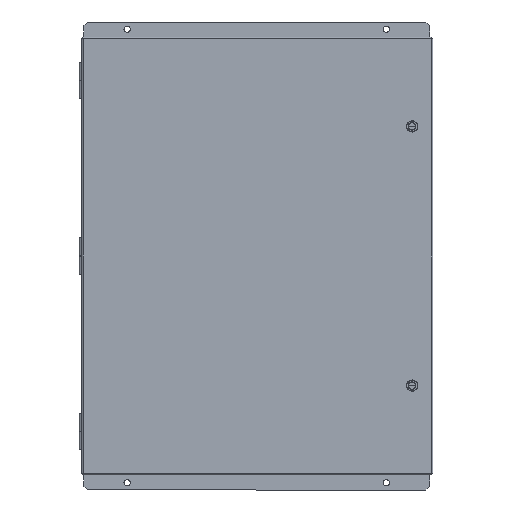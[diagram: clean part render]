
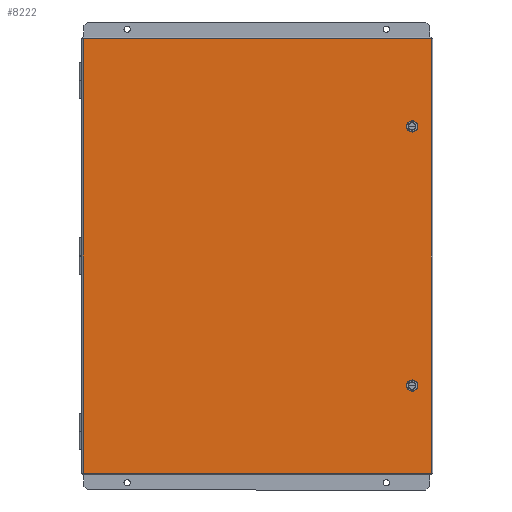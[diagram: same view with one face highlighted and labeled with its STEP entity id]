
A CAD part, front view. The second image highlights one B-rep face of the part: STEP entity #8222.
In plain terms, the highlighted planar face has unit normal (0, -1, 0) as drawn and (0, 0, 1) by its records, which use the part's own axes.
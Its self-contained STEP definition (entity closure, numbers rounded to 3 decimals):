
#941=ORIENTED_EDGE('',*,*,#3220,.F.);
#942=ORIENTED_EDGE('',*,*,#3217,.F.);
#943=ORIENTED_EDGE('',*,*,#3214,.F.);
#944=ORIENTED_EDGE('',*,*,#3211,.F.);
#945=ORIENTED_EDGE('',*,*,#3208,.F.);
#946=ORIENTED_EDGE('',*,*,#3205,.F.);
#947=ORIENTED_EDGE('',*,*,#3202,.F.);
#948=ORIENTED_EDGE('',*,*,#3199,.F.);
#949=ORIENTED_EDGE('',*,*,#3221,.T.);
#950=ORIENTED_EDGE('',*,*,#3222,.T.);
#951=ORIENTED_EDGE('',*,*,#3223,.T.);
#952=ORIENTED_EDGE('',*,*,#3224,.T.);
#953=ORIENTED_EDGE('',*,*,#3225,.T.);
#954=ORIENTED_EDGE('',*,*,#3226,.T.);
#955=ORIENTED_EDGE('',*,*,#3227,.T.);
#956=ORIENTED_EDGE('',*,*,#3228,.T.);
#957=ORIENTED_EDGE('',*,*,#3229,.T.);
#958=ORIENTED_EDGE('',*,*,#3230,.T.);
#959=ORIENTED_EDGE('',*,*,#3231,.T.);
#960=ORIENTED_EDGE('',*,*,#3232,.T.);
#3199=EDGE_CURVE('',#4352,#4353,#5111,.T.);
#3202=EDGE_CURVE('',#4353,#4355,#5114,.T.);
#3205=EDGE_CURVE('',#4355,#4357,#5117,.T.);
#3208=EDGE_CURVE('',#4357,#4359,#5120,.T.);
#3211=EDGE_CURVE('',#4359,#4361,#5123,.T.);
#3214=EDGE_CURVE('',#4361,#4363,#5126,.T.);
#3217=EDGE_CURVE('',#4363,#4365,#5129,.T.);
#3220=EDGE_CURVE('',#4365,#4352,#5132,.T.);
#3221=EDGE_CURVE('',#4366,#4367,#5133,.T.);
#3222=EDGE_CURVE('',#4367,#4368,#5134,.T.);
#3223=EDGE_CURVE('',#4368,#4369,#5135,.T.);
#3224=EDGE_CURVE('',#4369,#4366,#5136,.T.);
#3225=EDGE_CURVE('',#4370,#4371,#5137,.T.);
#3226=EDGE_CURVE('',#4371,#4372,#5138,.T.);
#3227=EDGE_CURVE('',#4372,#4373,#5139,.T.);
#3228=EDGE_CURVE('',#4373,#4374,#5140,.T.);
#3229=EDGE_CURVE('',#4374,#4375,#5141,.T.);
#3230=EDGE_CURVE('',#4375,#4376,#5142,.T.);
#3231=EDGE_CURVE('',#4376,#4377,#5143,.T.);
#3232=EDGE_CURVE('',#4377,#4370,#5144,.T.);
#4352=VERTEX_POINT('',#11922);
#4353=VERTEX_POINT('',#11924);
#4355=VERTEX_POINT('',#11930);
#4357=VERTEX_POINT('',#11936);
#4359=VERTEX_POINT('',#11942);
#4361=VERTEX_POINT('',#11948);
#4363=VERTEX_POINT('',#11954);
#4365=VERTEX_POINT('',#11960);
#4366=VERTEX_POINT('',#11967);
#4367=VERTEX_POINT('',#11968);
#4368=VERTEX_POINT('',#11970);
#4369=VERTEX_POINT('',#11972);
#4370=VERTEX_POINT('',#11975);
#4371=VERTEX_POINT('',#11976);
#4372=VERTEX_POINT('',#11978);
#4373=VERTEX_POINT('',#11980);
#4374=VERTEX_POINT('',#11982);
#4375=VERTEX_POINT('',#11984);
#4376=VERTEX_POINT('',#11986);
#4377=VERTEX_POINT('',#11988);
#5111=LINE('',#11923,#5858);
#5114=LINE('',#11929,#5861);
#5117=LINE('',#11935,#5864);
#5120=LINE('',#11941,#5867);
#5123=LINE('',#11947,#5870);
#5126=LINE('',#11953,#5873);
#5129=LINE('',#11959,#5876);
#5132=LINE('',#11964,#5879);
#5133=LINE('',#11966,#5880);
#5134=LINE('',#11969,#5881);
#5135=LINE('',#11971,#5882);
#5136=LINE('',#11973,#5883);
#5137=LINE('',#11974,#5884);
#5138=LINE('',#11977,#5885);
#5139=LINE('',#11979,#5886);
#5140=LINE('',#11981,#5887);
#5141=LINE('',#11983,#5888);
#5142=LINE('',#11985,#5889);
#5143=LINE('',#11987,#5890);
#5144=LINE('',#11989,#5891);
#5858=VECTOR('',#9648,1000.);
#5861=VECTOR('',#9653,1000.);
#5864=VECTOR('',#9658,1000.);
#5867=VECTOR('',#9663,1000.);
#5870=VECTOR('',#9668,1000.);
#5873=VECTOR('',#9673,1000.);
#5876=VECTOR('',#9678,1000.);
#5879=VECTOR('',#9683,1000.);
#5880=VECTOR('',#9686,1000.);
#5881=VECTOR('',#9687,1000.);
#5882=VECTOR('',#9688,1000.);
#5883=VECTOR('',#9689,1000.);
#5884=VECTOR('',#9690,1000.);
#5885=VECTOR('',#9691,1000.);
#5886=VECTOR('',#9692,1000.);
#5887=VECTOR('',#9693,1000.);
#5888=VECTOR('',#9694,1000.);
#5889=VECTOR('',#9695,1000.);
#5890=VECTOR('',#9696,1000.);
#5891=VECTOR('',#9697,1000.);
#6621=EDGE_LOOP('',(#941,#942,#943,#944,#945,#946,#947,#948));
#6622=EDGE_LOOP('',(#949,#950,#951,#952));
#6623=EDGE_LOOP('',(#953,#954,#955,#956,#957,#958,#959,#960));
#7255=FACE_BOUND('',#6621,.T.);
#7256=FACE_BOUND('',#6622,.T.);
#7257=FACE_BOUND('',#6623,.T.);
#7873=PLANE('',#8822);
#8222=ADVANCED_FACE('',(#7255,#7256,#7257),#7873,.T.);
#8822=AXIS2_PLACEMENT_3D('',#11965,#9684,#9685);
#9648=DIRECTION('',(-0.707,-0.707,0.));
#9653=DIRECTION('',(0.,-1.,0.));
#9658=DIRECTION('',(0.707,-0.707,0.));
#9663=DIRECTION('',(1.,0.,0.));
#9668=DIRECTION('',(0.707,0.707,0.));
#9673=DIRECTION('',(0.,1.,0.));
#9678=DIRECTION('',(-0.707,0.707,0.));
#9683=DIRECTION('',(-1.,0.,0.));
#9684=DIRECTION('',(0.,0.,1.));
#9685=DIRECTION('',(1.,0.,0.));
#9686=DIRECTION('',(0.,-1.,0.));
#9687=DIRECTION('',(1.,0.,0.));
#9688=DIRECTION('',(0.,1.,0.));
#9689=DIRECTION('',(-1.,0.,0.));
#9690=DIRECTION('',(-1.,0.,0.));
#9691=DIRECTION('',(-0.707,0.707,0.));
#9692=DIRECTION('',(0.,1.,0.));
#9693=DIRECTION('',(0.707,0.707,0.));
#9694=DIRECTION('',(1.,0.,0.));
#9695=DIRECTION('',(0.707,-0.707,0.));
#9696=DIRECTION('',(0.,-1.,0.));
#9697=DIRECTION('',(-0.707,-0.707,0.));
#11922=CARTESIAN_POINT('',(271.003,237.007,1.829));
#11923=CARTESIAN_POINT('',(271.003,237.007,1.829));
#11924=CARTESIAN_POINT('',(264.516,230.52,1.829));
#11929=CARTESIAN_POINT('',(264.516,230.52,1.829));
#11930=CARTESIAN_POINT('',(264.516,226.68,1.829));
#11935=CARTESIAN_POINT('',(264.516,226.68,1.829));
#11936=CARTESIAN_POINT('',(271.003,220.193,1.829));
#11941=CARTESIAN_POINT('',(271.003,220.193,1.829));
#11942=CARTESIAN_POINT('',(274.843,220.193,1.829));
#11947=CARTESIAN_POINT('',(274.843,220.193,1.829));
#11948=CARTESIAN_POINT('',(281.33,226.68,1.829));
#11953=CARTESIAN_POINT('',(281.33,226.68,1.829));
#11954=CARTESIAN_POINT('',(281.33,230.52,1.829));
#11959=CARTESIAN_POINT('',(281.33,230.52,1.829));
#11960=CARTESIAN_POINT('',(274.843,237.007,1.829));
#11964=CARTESIAN_POINT('',(274.843,237.007,1.829));
#11965=CARTESIAN_POINT('',(-306.934,-383.134,1.829));
#11966=CARTESIAN_POINT('',(-306.934,383.134,1.829));
#11967=CARTESIAN_POINT('',(-306.934,383.134,1.829));
#11968=CARTESIAN_POINT('',(-306.934,-383.134,1.829));
#11969=CARTESIAN_POINT('',(-306.934,-383.134,1.829));
#11970=CARTESIAN_POINT('',(306.934,-383.134,1.829));
#11971=CARTESIAN_POINT('',(306.934,-383.134,1.829));
#11972=CARTESIAN_POINT('',(306.934,383.134,1.829));
#11973=CARTESIAN_POINT('',(306.934,383.134,1.829));
#11974=CARTESIAN_POINT('',(274.843,-237.007,1.829));
#11975=CARTESIAN_POINT('',(274.843,-237.007,1.829));
#11976=CARTESIAN_POINT('',(271.003,-237.007,1.829));
#11977=CARTESIAN_POINT('',(271.003,-237.007,1.829));
#11978=CARTESIAN_POINT('',(264.516,-230.52,1.829));
#11979=CARTESIAN_POINT('',(264.516,-230.52,1.829));
#11980=CARTESIAN_POINT('',(264.516,-226.68,1.829));
#11981=CARTESIAN_POINT('',(264.516,-226.68,1.829));
#11982=CARTESIAN_POINT('',(271.003,-220.193,1.829));
#11983=CARTESIAN_POINT('',(271.003,-220.193,1.829));
#11984=CARTESIAN_POINT('',(274.843,-220.193,1.829));
#11985=CARTESIAN_POINT('',(274.843,-220.193,1.829));
#11986=CARTESIAN_POINT('',(281.33,-226.68,1.829));
#11987=CARTESIAN_POINT('',(281.33,-226.68,1.829));
#11988=CARTESIAN_POINT('',(281.33,-230.52,1.829));
#11989=CARTESIAN_POINT('',(281.33,-230.52,1.829));
